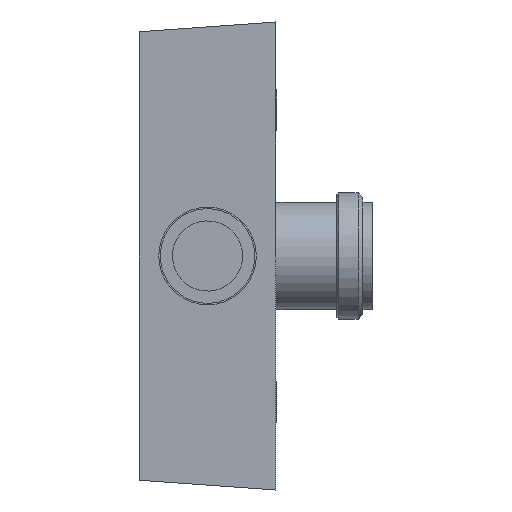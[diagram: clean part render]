
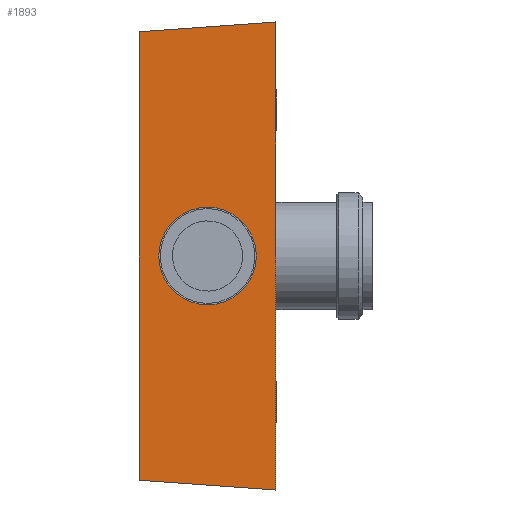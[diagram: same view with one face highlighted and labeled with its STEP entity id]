
A CAD part, front view. The second image highlights one B-rep face of the part: STEP entity #1893.
In plain terms, the highlighted planar face has unit normal (0, -1, 0).
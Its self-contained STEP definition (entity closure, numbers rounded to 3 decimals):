
#103=LINE('',#2794,#287);
#106=LINE('',#2800,#290);
#109=LINE('',#2804,#293);
#110=LINE('',#2805,#294);
#287=VECTOR('',#2311,10.);
#290=VECTOR('',#2316,10.);
#293=VECTOR('',#2321,10.);
#294=VECTOR('',#2322,10.);
#473=PLANE('',#2137);
#559=FACE_BOUND('',#736,.T.);
#607=FACE_OUTER_BOUND('',#735,.T.);
#735=EDGE_LOOP('',(#1384,#1385,#1386,#1387));
#736=EDGE_LOOP('',(#1388));
#891=CIRCLE('',#2138,25.);
#933=VERTEX_POINT('',#2792);
#934=VERTEX_POINT('',#2793);
#935=VERTEX_POINT('',#2798);
#936=VERTEX_POINT('',#2799);
#937=VERTEX_POINT('',#2806);
#1115=EDGE_CURVE('',#933,#934,#103,.T.);
#1118=EDGE_CURVE('',#935,#936,#106,.T.);
#1121=EDGE_CURVE('',#935,#934,#109,.T.);
#1122=EDGE_CURVE('',#933,#936,#110,.T.);
#1123=EDGE_CURVE('',#937,#937,#891,.T.);
#1384=ORIENTED_EDGE('',*,*,#1115,.T.);
#1385=ORIENTED_EDGE('',*,*,#1121,.F.);
#1386=ORIENTED_EDGE('',*,*,#1118,.T.);
#1387=ORIENTED_EDGE('',*,*,#1122,.F.);
#1388=ORIENTED_EDGE('',*,*,#1123,.T.);
#1893=ADVANCED_FACE('',(#607,#559),#473,.T.);
#2137=AXIS2_PLACEMENT_3D('',#2803,#2319,#2320);
#2138=AXIS2_PLACEMENT_3D('',#2807,#2323,#2324);
#2311=DIRECTION('',(-0.997,0.,-0.071));
#2316=DIRECTION('',(0.997,0.,-0.071));
#2319=DIRECTION('center_axis',(0.,-1.,0.));
#2320=DIRECTION('ref_axis',(0.,0.,-1.));
#2321=DIRECTION('',(0.,0.,1.));
#2322=DIRECTION('',(0.,0.,-1.));
#2323=DIRECTION('center_axis',(0.,1.,0.));
#2324=DIRECTION('ref_axis',(-1.,0.,0.));
#2792=CARTESIAN_POINT('',(70.,0.,0.));
#2793=CARTESIAN_POINT('',(0.,0.,-5.));
#2794=CARTESIAN_POINT('',(0.178,0.,-4.987));
#2798=CARTESIAN_POINT('',(0.,0.,-235.));
#2799=CARTESIAN_POINT('',(70.,0.,-240.));
#2800=CARTESIAN_POINT('',(26.65,0.,-236.904));
#2803=CARTESIAN_POINT('Origin',(0.,0.,0.));
#2804=CARTESIAN_POINT('',(0.,0.,-240.));
#2805=CARTESIAN_POINT('',(70.,0.,-240.));
#2806=CARTESIAN_POINT('',(60.,0.,-120.));
#2807=CARTESIAN_POINT('Origin',(35.,0.,-120.));
